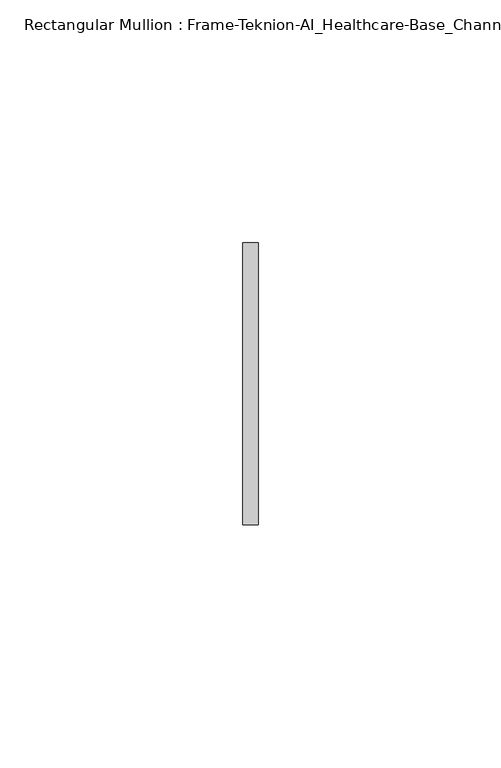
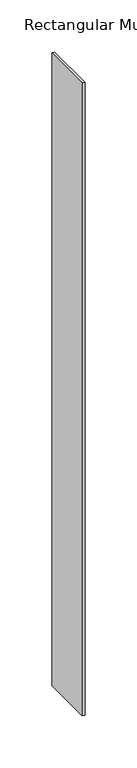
"""IFC4 building model written with IfcOpenShell, lengths in millimetres: member geometry, Rectangular Mullion : Frame-Teknion-AI_Healthcare-Base_Channel."""

from ifc_helpers import new_model, si_unit, frame, origin, place, context, project, spatial, polyline, outline, extrude, source, transform, mapped, element, save


def rectangular_mullion_frame_teknion_ai_healthcare_base_channel_ac74deda(model_context):
    return source(origin(), model_context, "Body", "SweptSolid", [
        extrude(outline(polyline([(0.0, 29.0214844), (0.0, -29.0214844), (-3.175, -29.0214844), (-3.175, 29.0214844), (0.0, 29.0214844)])), frame((0.0, 0.0, -742.3982003), z_axis=(0.0, 0.0, 1.0), x_axis=(1.0, 0.0, 0.0)), (0.0, 0.0, 1.0), 742.3982003),
    ])


if __name__ == "__main__":
    model = new_model("IFC4")
    model_context = context("Model", 3, world=origin())
    ifc_project = project(units=[si_unit("LENGTHUNIT", "METRE", prefix="MILLI")], contexts=[model_context])
    site = spatial("IfcSite", under=ifc_project)
    building = spatial("IfcBuilding", under=site)
    placement = place(None, origin())
    rectangular_mullion_frame_teknion_ai_healthcare_base_channel_shape = rectangular_mullion_frame_teknion_ai_healthcare_base_channel_ac74deda(model_context)
    element("IfcMember", 1, ObjectType="Rectangular Mullion : Frame-Teknion-AI_Healthcare-Base_Channel", at=placement, inside=building, context=model_context, shape_type="MappedRepresentation", body=[
        mapped(rectangular_mullion_frame_teknion_ai_healthcare_base_channel_shape, transform((0.0, 0.0, 0.0), x_axis=(1.0, 0.0, 0.0), y_axis=(0.0, 1.0, 0.0), z_axis=(0.0, 0.0, 1.0))),
    ])
    save(model, "model.ifc")
